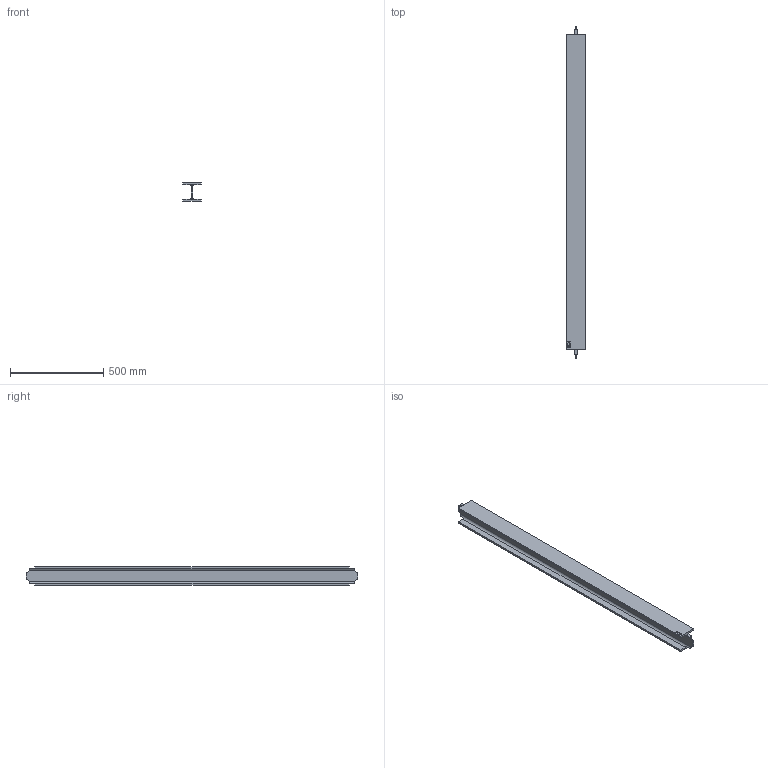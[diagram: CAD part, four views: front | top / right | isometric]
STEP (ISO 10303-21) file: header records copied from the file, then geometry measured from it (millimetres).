
FILE_DESCRIPTION (( 'STEP AP214' ), '1' );
FILE_NAME ('CCJ029-REP.014 - POUTRE A4-B5.STEP', '2025-02-13T07:36:59', ( '' ), ( '' ), 'SwSTEP 2.0', 'SolidWorks 2021', '' );
FILE_SCHEMA (( 'AUTOMOTIVE_DESIGN' ));
Length unit declared in the file: millimetre
Products named in the file (1): CCJ029-REP.014 - POUTRE A4-B5
Bounding box: 100 x 1780 x 100 mm (x, y, z)
Volume: 4428416.5 mm3; surface area: 976182.5 mm2
Topology: 1 solids, 1 shells, 63 faces, 168 edges, 112 vertices
Faces by surface type: plane 46, bspline 9, cylinder 8
Entity records: 2822 total; most frequent: CARTESIAN_POINT 1273, ORIENTED_EDGE 336, DIRECTION 268, EDGE_CURVE 168, LINE 126, VECTOR 126, VERTEX_POINT 112, AXIS2_PLACEMENT_3D 71
